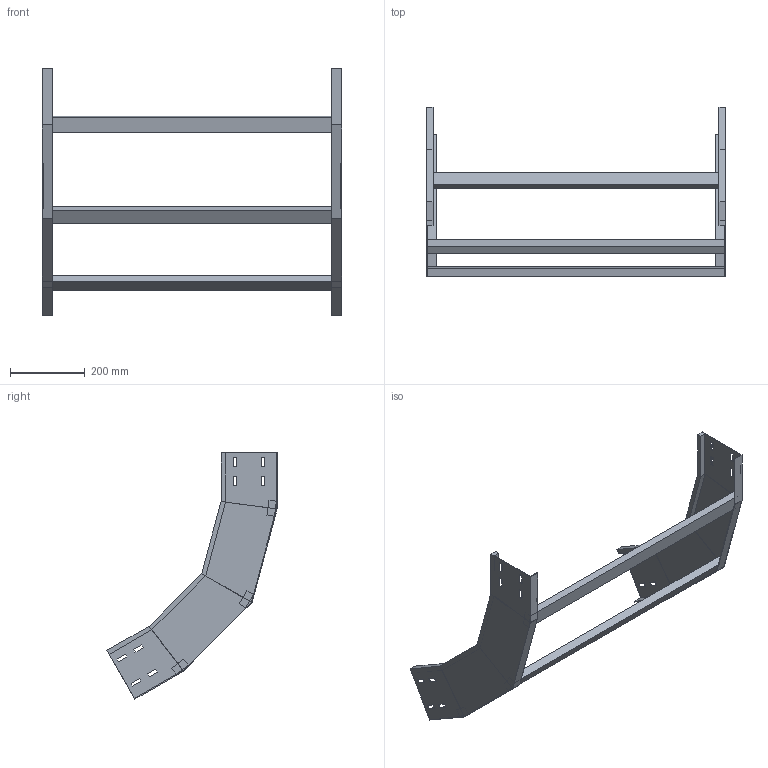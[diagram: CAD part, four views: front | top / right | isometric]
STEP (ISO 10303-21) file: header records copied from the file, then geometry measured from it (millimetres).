
FILE_DESCRIPTION (( 'STEP AP214' ), '1' );
FILE_NAME ('40J5F800.step', '2025-02-21T16:27:06', ( '' ), ( '' ), 'SwSTEP 2.0', 'SolidWorks 2023', '' );
FILE_SCHEMA (( 'AUTOMOTIVE_DESIGN' ));
Length unit declared in the file: millimetre
Products named in the file (3): TRAVERSINO_800; LONGH.SALITA_60°_H150_R500; 40J5F800
Assembly tree (5 placements, depth 2):
  40J5F800
    LONGH.SALITA_60°_H150_R500  x2
    TRAVERSINO_800  x3
Bounding box: 800 x 455.08 x 658.32 mm (x, y, z)
Volume: 2707120.4 mm3; surface area: 864099.3 mm2
Topology: 5 solids, 5 shells, 150 faces, 372 edges, 232 vertices
Faces by surface type: plane 150
Entity records: 2216 total; most frequent: CARTESIAN_POINT 372, ORIENTED_EDGE 360, DIRECTION 340, EDGE_CURVE 180, LINE 180, VECTOR 180, VERTEX_POINT 112, EDGE_LOOP 88
